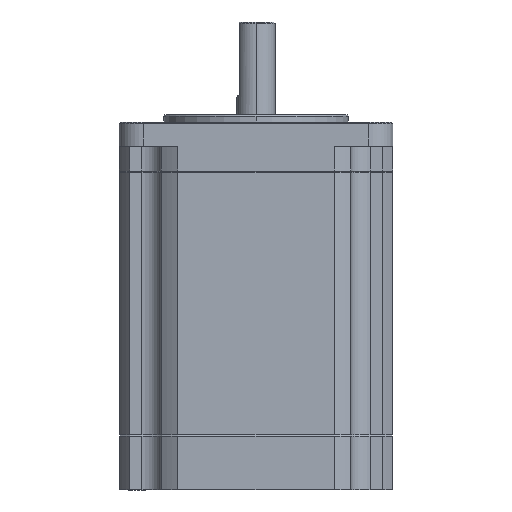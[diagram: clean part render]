
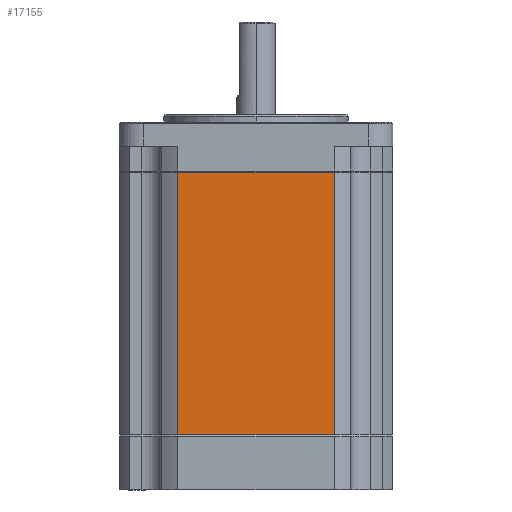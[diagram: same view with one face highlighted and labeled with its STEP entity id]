
A CAD part, front view. The second image highlights one B-rep face of the part: STEP entity #17155.
In plain terms, the highlighted planar face has unit normal (0, -1, 0).
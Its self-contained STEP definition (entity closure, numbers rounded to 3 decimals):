
#224 = VECTOR ( 'NONE', #15900, 1000. ) ;
#597 = ORIENTED_EDGE ( 'NONE', *, *, #11819, .T. ) ;
#744 = DIRECTION ( 'NONE',  ( 0., 0., -1. ) ) ;
#842 = CARTESIAN_POINT ( 'NONE',  ( 16.156, -28.2, -54.05 ) ) ;
#983 = CARTESIAN_POINT ( 'NONE',  ( -16.156, -28.2, 0. ) ) ;
#1087 = LINE ( 'NONE', #17425, #224 ) ;
#1100 = FACE_OUTER_BOUND ( 'NONE', #2486, .T. ) ;
#1487 = EDGE_CURVE ( 'NONE', #4349, #9392, #4026, .T. ) ;
#2486 = EDGE_LOOP ( 'NONE', ( #8413, #16548, #14302, #597 ) ) ;
#3665 = VECTOR ( 'NONE', #12588, 1000. ) ;
#4026 = LINE ( 'NONE', #983, #5323 ) ;
#4048 = DIRECTION ( 'NONE',  ( 0., -1., 0. ) ) ;
#4349 = VERTEX_POINT ( 'NONE', #8831 ) ;
#5323 = VECTOR ( 'NONE', #9473, 1000. ) ;
#7486 = LINE ( 'NONE', #8566, #3665 ) ;
#8390 = VERTEX_POINT ( 'NONE', #842 ) ;
#8413 = ORIENTED_EDGE ( 'NONE', *, *, #11044, .T. ) ;
#8566 = CARTESIAN_POINT ( 'NONE',  ( 16.156, -28.2, -54.05 ) ) ;
#8831 = CARTESIAN_POINT ( 'NONE',  ( 16.156, -28.2, 0. ) ) ;
#9392 = VERTEX_POINT ( 'NONE', #15055 ) ;
#9473 = DIRECTION ( 'NONE',  ( -1., 0., 0. ) ) ;
#10932 = CARTESIAN_POINT ( 'NONE',  ( -16.156, -28.2, -54.05 ) ) ;
#11044 = EDGE_CURVE ( 'NONE', #12065, #8390, #1087, .T. ) ;
#11819 = EDGE_CURVE ( 'NONE', #9392, #12065, #16993, .T. ) ;
#12065 = VERTEX_POINT ( 'NONE', #10932 ) ;
#12588 = DIRECTION ( 'NONE',  ( 0., 0., -1. ) ) ;
#12838 = AXIS2_PLACEMENT_3D ( 'NONE', #15016, #4048, #13692 ) ;
#13692 = DIRECTION ( 'NONE',  ( 0., 0., -1. ) ) ;
#14302 = ORIENTED_EDGE ( 'NONE', *, *, #1487, .T. ) ;
#14757 = PLANE ( 'NONE',  #12838 ) ;
#15016 = CARTESIAN_POINT ( 'NONE',  ( -16.156, -28.2, -54.05 ) ) ;
#15055 = CARTESIAN_POINT ( 'NONE',  ( -16.156, -28.2, 0. ) ) ;
#15560 = CARTESIAN_POINT ( 'NONE',  ( -16.156, -28.2, -54.05 ) ) ;
#15900 = DIRECTION ( 'NONE',  ( 1., 0., 0. ) ) ;
#15939 = EDGE_CURVE ( 'NONE', #4349, #8390, #7486, .T. ) ;
#16548 = ORIENTED_EDGE ( 'NONE', *, *, #15939, .F. ) ;
#16993 = LINE ( 'NONE', #15560, #17635 ) ;
#17155 = ADVANCED_FACE ( 'NONE', ( #1100 ), #14757, .T. ) ;
#17425 = CARTESIAN_POINT ( 'NONE',  ( 0., -28.2, -54.05 ) ) ;
#17635 = VECTOR ( 'NONE', #744, 1000. ) ;
